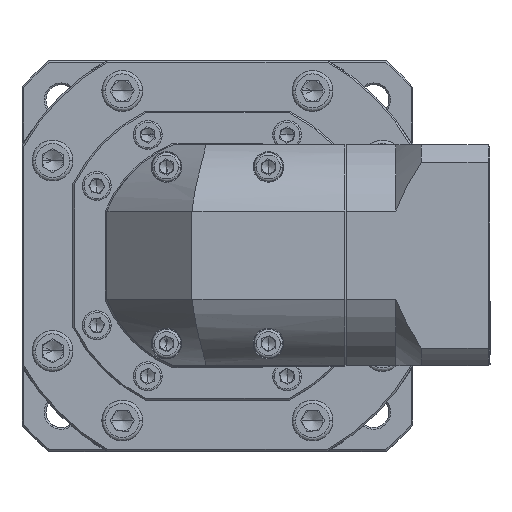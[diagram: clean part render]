
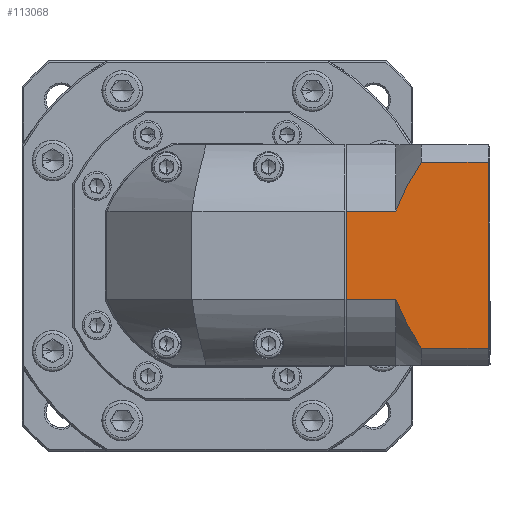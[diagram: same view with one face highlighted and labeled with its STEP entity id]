
A CAD part, top view. The second image highlights one B-rep face of the part: STEP entity #113068.
In plain terms, the highlighted planar face has unit normal (0, 0, 1).
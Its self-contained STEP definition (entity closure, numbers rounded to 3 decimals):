
#4453 = VECTOR ( 'NONE', #18846, 1000. ) ;
#10029 = CARTESIAN_POINT ( 'NONE',  ( 90.468, 151.219, 34.127 ) ) ;
#11743 = CARTESIAN_POINT ( 'NONE',  ( 107.054, 136.699, 34.127 ) ) ;
#12903 = CARTESIAN_POINT ( 'NONE',  ( 104.968, 105.728, 34.127 ) ) ;
#15020 = CARTESIAN_POINT ( 'NONE',  ( 105.206, 105.086, 34.127 ) ) ;
#18846 = DIRECTION ( 'NONE',  ( 0., 1., 0. ) ) ;
#22655 = VECTOR ( 'NONE', #110109, 1000. ) ;
#23202 = CARTESIAN_POINT ( 'NONE',  ( 111.019, 143.816, 34.127 ) ) ;
#23334 = VECTOR ( 'NONE', #46293, 1000. ) ;
#25230 = EDGE_CURVE ( 'NONE', #43564, #25906, #133788, .T. ) ;
#25906 = VERTEX_POINT ( 'NONE', #100270 ) ;
#26589 = CARTESIAN_POINT ( 'NONE',  ( 104.968, 146.105, 34.127 ) ) ;
#33012 = CARTESIAN_POINT ( 'NONE',  ( 132.668, 151.219, 34.127 ) ) ;
#38188 = LINE ( 'NONE', #12903, #38346 ) ;
#38346 = VECTOR ( 'NONE', #110162, 1000. ) ;
#38873 = CARTESIAN_POINT ( 'NONE',  ( 132.168, 91.333, 34.127 ) ) ;
#39859 = CARTESIAN_POINT ( 'NONE',  ( 107.108, 100.708, 34.127 ) ) ;
#40272 = DIRECTION ( 'NONE',  ( -1., 0., 0. ) ) ;
#41481 = EDGE_CURVE ( 'NONE', #43564, #98088, #64458, .T. ) ;
#43564 = VERTEX_POINT ( 'NONE', #38873 ) ;
#46293 = DIRECTION ( 'NONE',  ( 1., 0., 0. ) ) ;
#47643 = VERTEX_POINT ( 'NONE', #89223 ) ;
#47720 = ORIENTED_EDGE ( 'NONE', *, *, #86732, .T. ) ;
#48912 = VECTOR ( 'NONE', #55903, 1000. ) ;
#52827 = CARTESIAN_POINT ( 'NONE',  ( 132.168, 151.219, 34.127 ) ) ;
#54889 = ORIENTED_EDGE ( 'NONE', *, *, #82883, .T. ) ;
#55903 = DIRECTION ( 'NONE',  ( 1., 0., 0. ) ) ;
#56214 = ORIENTED_EDGE ( 'NONE', *, *, #25230, .F. ) ;
#56713 = CARTESIAN_POINT ( 'NONE',  ( 108.964, 140.295, 34.127 ) ) ;
#57201 = CARTESIAN_POINT ( 'NONE',  ( 104.968, 131.709, 34.127 ) ) ;
#60417 = CARTESIAN_POINT ( 'NONE',  ( 104.968, 105.728, 34.127 ) ) ;
#61831 = CARTESIAN_POINT ( 'NONE',  ( 107.713, 99.496, 34.127 ) ) ;
#64458 = LINE ( 'NONE', #52827, #4453 ) ;
#65378 = CARTESIAN_POINT ( 'NONE',  ( 111.734, 144.967, 34.127 ) ) ;
#66216 = ORIENTED_EDGE ( 'NONE', *, *, #89298, .F. ) ;
#67787 = LINE ( 'NONE', #130698, #48912 ) ;
#68045 = CARTESIAN_POINT ( 'NONE',  ( 104.968, 105.728, 34.127 ) ) ;
#77150 = DIRECTION ( 'NONE',  ( 0., 0., -1. ) ) ;
#77232 = CARTESIAN_POINT ( 'NONE',  ( 90.468, 105.728, 34.127 ) ) ;
#77879 = CARTESIAN_POINT ( 'NONE',  ( 105.91, 134.247, 34.127 ) ) ;
#79749 = ORIENTED_EDGE ( 'NONE', *, *, #41481, .T. ) ;
#80995 = LINE ( 'NONE', #10029, #22655 ) ;
#82437 = EDGE_CURVE ( 'NONE', #90814, #47643, #67787, .T. ) ;
#82883 = EDGE_CURVE ( 'NONE', #124773, #47643, #90603, .T. ) ;
#83028 = CARTESIAN_POINT ( 'NONE',  ( 105.984, 103.186, 34.127 ) ) ;
#86732 = EDGE_CURVE ( 'NONE', #90814, #90311, #80995, .T. ) ;
#89223 = CARTESIAN_POINT ( 'NONE',  ( 104.968, 131.709, 34.127 ) ) ;
#89298 = EDGE_CURVE ( 'NONE', #113208, #90311, #38188, .T. ) ;
#90311 = VERTEX_POINT ( 'NONE', #77232 ) ;
#90603 = B_SPLINE_CURVE_WITH_KNOTS ( 'NONE', 3,
 ( #109484, #65378, #23202, #109949, #56713, #11743, #77879, #57201 ),
 .UNSPECIFIED., .F., .F.,
 ( 4, 2, 2, 4 ),
 ( 0.058, 0.062, 0.066, 0.074 ),
 .UNSPECIFIED. ) ;
#90814 = VERTEX_POINT ( 'NONE', #128915 ) ;
#98088 = VERTEX_POINT ( 'NONE', #111480 ) ;
#99311 = FACE_OUTER_BOUND ( 'NONE', #112163, .T. ) ;
#100132 = PLANE ( 'NONE',  #129948 ) ;
#100270 = CARTESIAN_POINT ( 'NONE',  ( 112.468, 91.333, 34.127 ) ) ;
#100323 = CARTESIAN_POINT ( 'NONE',  ( 112.468, 146.105, 34.127 ) ) ;
#100645 = EDGE_CURVE ( 'NONE', #124773, #98088, #131279, .T. ) ;
#105031 = CARTESIAN_POINT ( 'NONE',  ( 112.468, 91.333, 34.127 ) ) ;
#105070 = EDGE_CURVE ( 'NONE', #113208, #25906, #105775, .T. ) ;
#105775 = B_SPLINE_CURVE_WITH_KNOTS ( 'NONE', 3,
 ( #60417, #15020, #115655, #83028, #138093, #39859, #61831, #105987, #128486, #105031 ),
 .UNSPECIFIED., .F., .F.,
 ( 4, 2, 2, 2, 4 ),
 ( 0.101, 0.103, 0.105, 0.109, 0.117 ),
 .UNSPECIFIED. ) ;
#105987 = CARTESIAN_POINT ( 'NONE',  ( 109.618, 95.915, 34.127 ) ) ;
#109484 = CARTESIAN_POINT ( 'NONE',  ( 112.468, 146.105, 34.127 ) ) ;
#109949 = CARTESIAN_POINT ( 'NONE',  ( 109.635, 141.481, 34.127 ) ) ;
#110109 = DIRECTION ( 'NONE',  ( 0., -1., 0. ) ) ;
#110162 = DIRECTION ( 'NONE',  ( -1., 0., 0. ) ) ;
#111480 = CARTESIAN_POINT ( 'NONE',  ( 132.168, 146.105, 34.127 ) ) ;
#112163 = EDGE_LOOP ( 'NONE', ( #56214, #79749, #136385, #54889, #135896, #47720, #66216, #119294 ) ) ;
#113068 = ADVANCED_FACE ( 'NONE', ( #99311 ), #100132, .F. ) ;
#113208 = VERTEX_POINT ( 'NONE', #68045 ) ;
#115655 = CARTESIAN_POINT ( 'NONE',  ( 105.458, 104.447, 34.127 ) ) ;
#119294 = ORIENTED_EDGE ( 'NONE', *, *, #105070, .T. ) ;
#120812 = DIRECTION ( 'NONE',  ( 1., 0., 0. ) ) ;
#124773 = VERTEX_POINT ( 'NONE', #100323 ) ;
#125188 = VECTOR ( 'NONE', #40272, 1000. ) ;
#128486 = CARTESIAN_POINT ( 'NONE',  ( 111.006, 93.601, 34.127 ) ) ;
#128915 = CARTESIAN_POINT ( 'NONE',  ( 90.468, 131.709, 34.127 ) ) ;
#129948 = AXIS2_PLACEMENT_3D ( 'NONE', #33012, #77150, #120812 ) ;
#130698 = CARTESIAN_POINT ( 'NONE',  ( 104.968, 131.709, 34.127 ) ) ;
#131279 = LINE ( 'NONE', #26589, #23334 ) ;
#133788 = LINE ( 'NONE', #138506, #125188 ) ;
#135896 = ORIENTED_EDGE ( 'NONE', *, *, #82437, .F. ) ;
#136385 = ORIENTED_EDGE ( 'NONE', *, *, #100645, .F. ) ;
#138093 = CARTESIAN_POINT ( 'NONE',  ( 106.258, 102.562, 34.127 ) ) ;
#138506 = CARTESIAN_POINT ( 'NONE',  ( 104.968, 91.333, 34.127 ) ) ;
